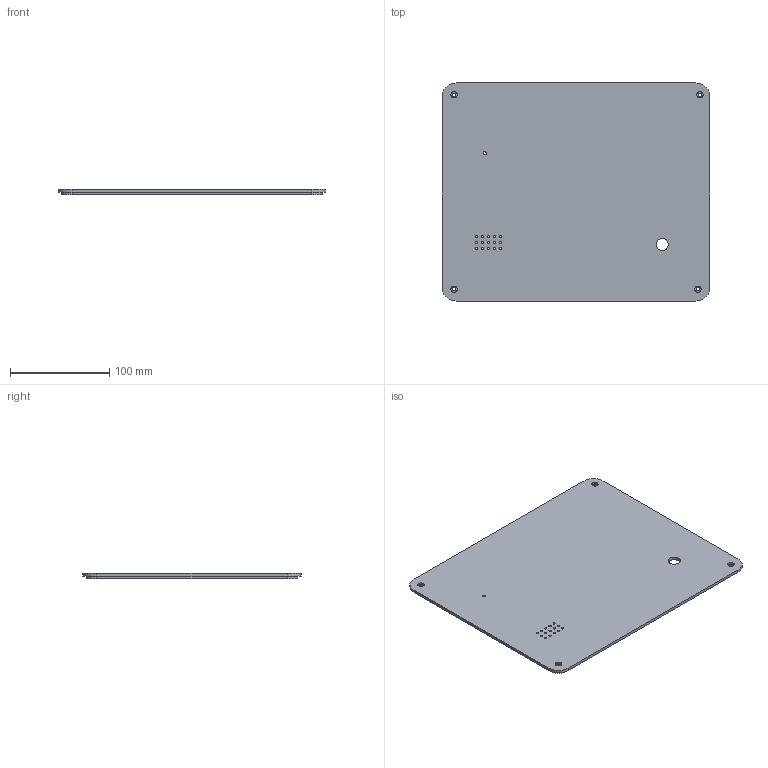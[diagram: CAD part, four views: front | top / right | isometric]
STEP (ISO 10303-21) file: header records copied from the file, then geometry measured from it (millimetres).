
FILE_DESCRIPTION(('Open CASCADE Model'),'2;1');
FILE_NAME('Open CASCADE Shape Model','2026-10-05T19:39:42',('Author'),( 'Open CASCADE'),'Open CASCADE STEP processor 7.8','Open CASCADE 7.8' ,'Unknown');
FILE_SCHEMA(('AUTOMOTIVE_DESIGN { 1 0 10303 214 1 1 1 1 }'));
Length unit declared in the file: millimetre
Products named in the file (1): Open CASCADE STEP translator 7.8 2
Bounding box: 270 x 220 x 6 mm (x, y, z)
Volume: 182327.8 mm3; surface area: 127092.2 mm2
Topology: 1 solids, 1 shells, 65 faces, 174 edges, 116 vertices
Faces by surface type: cylinder 46, plane 19
Full cylindrical faces by diameter (mm): 2.2 x15, 3.3 x1, 3.4 x4, 6.4 x4, 12.2 x1
Entity records: 4593 total; most frequent: CARTESIAN_POINT 1114, DIRECTION 651, ORIENTED_EDGE 348, PCURVE 348, DEFINITIONAL_REPRESENTATION 348, LINE 306, VECTOR 306, EDGE_CURVE 174
